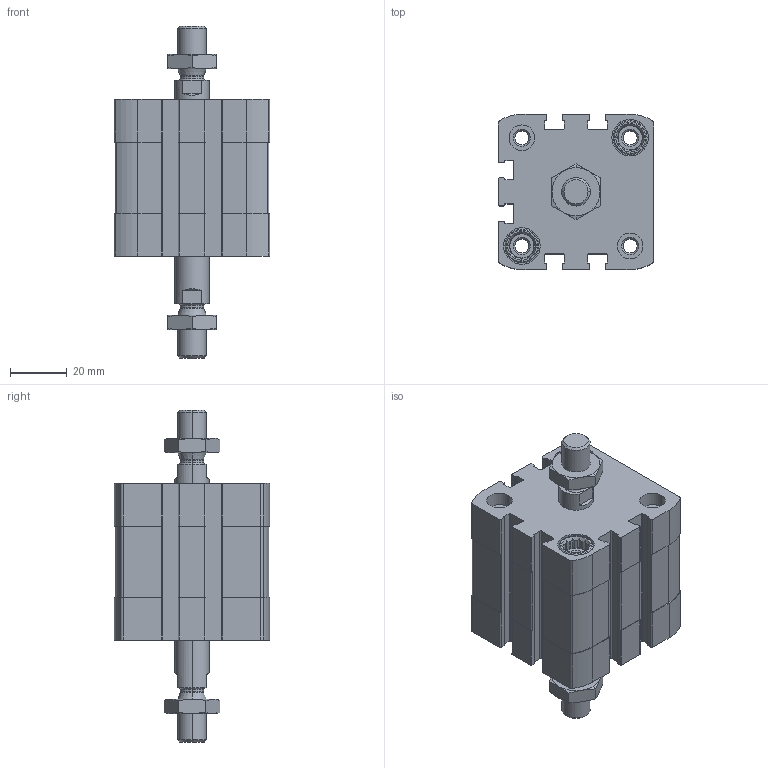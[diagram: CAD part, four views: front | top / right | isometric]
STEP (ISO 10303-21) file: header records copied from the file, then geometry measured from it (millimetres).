
FILE_DESCRIPTION (( 'STEP AP203' ), '1' );
FILE_NAME ('CCN40-10-P.STEP', '2020-06-22T18:50:53', ( '' ), ( '' ), 'SwSTEP 2.0', 'SolidWorks 2019', '' );
FILE_SCHEMA (( 'CONFIG_CONTROL_DESIGN' ));
Length unit declared in the file: millimetre
Products named in the file (1): CCN40-10-P
Bounding box: 54.5 x 54.5 x 116.6 mm (x, y, z)
Volume: 137013.1 mm3; surface area: 42856.9 mm2
Topology: 4 solids, 4 shells, 536 faces, 1416 edges, 920 vertices
Faces by surface type: plane 288, cylinder 180, cone 60, torus 8
Entity records: 17371 total; most frequent: CARTESIAN_POINT 3741, DIRECTION 2898, ORIENTED_EDGE 2832, EDGE_CURVE 1416, AXIS2_PLACEMENT_3D 1069, VERTEX_POINT 920, VECTOR 760, LINE 760
